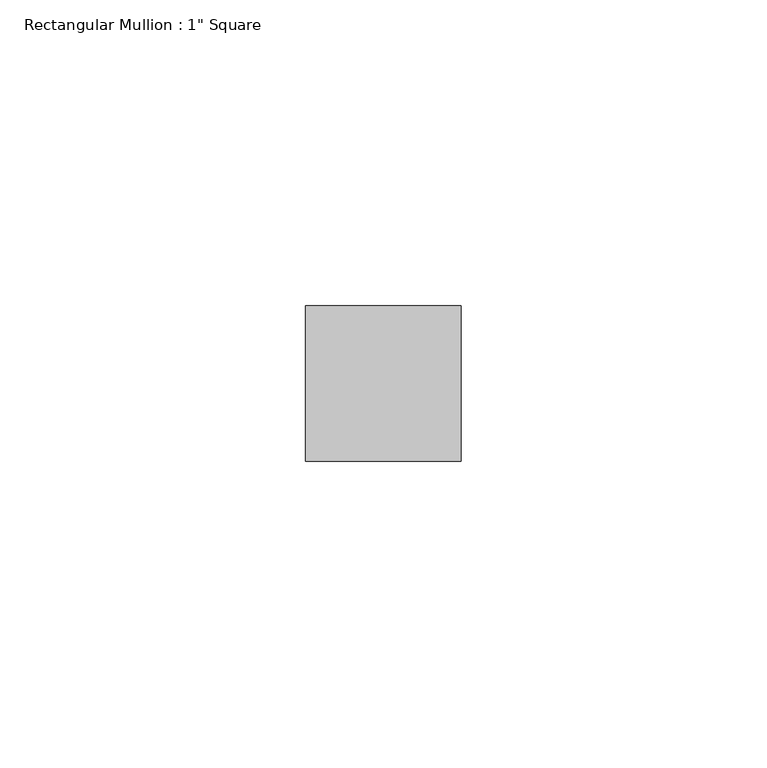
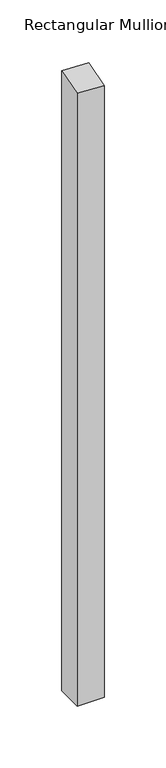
"""IFC4 building model written with IfcOpenShell, lengths in millimetres: member geometry."""

from ifc_helpers import new_model, si_unit, origin, place, context, project, spatial, faceted_brep, source, transform, mapped, element, save


def member_7b8779ad(model_context):
    return source(origin(), model_context, "Body", "Brep", [
        faceted_brep([(0.0, 12.7, -609.6), (0.0, -12.7, -609.6), (-25.4, -12.7, -609.6), (-25.4, 12.7, -609.6), (-25.4, 12.7, 4.9572165), (0.0, 12.7, 3.6504251), (-25.4, -12.7, -2.3436337), (0.0, -12.7, -3.6504251)], [[[0, 1, 2, 3]], [[4, 5, 0, 3]], [[6, 4, 3, 2]], [[7, 6, 2, 1]], [[5, 7, 1, 0]], [[5, 4, 6, 7]]]),
    ])


if __name__ == "__main__":
    model = new_model("IFC4")
    model_context = context("Model", 3, world=origin())
    ifc_project = project(units=[si_unit("LENGTHUNIT", "METRE", prefix="MILLI")], contexts=[model_context])
    site = spatial("IfcSite", under=ifc_project)
    building = spatial("IfcBuilding", under=site)
    placement = place(None, origin())
    member_shape = member_7b8779ad(model_context)
    element("IfcMember", 1, ObjectType="Rectangular Mullion : 1\" Square", at=placement, inside=building, context=model_context, shape_type="MappedRepresentation", body=[
        mapped(member_shape, transform((0.0, 0.0, 0.0), x_axis=(1.0, 0.0, 0.0), y_axis=(0.0, 1.0, 0.0), z_axis=(0.0, 0.0, 1.0))),
    ])
    save(model, "model.ifc")
